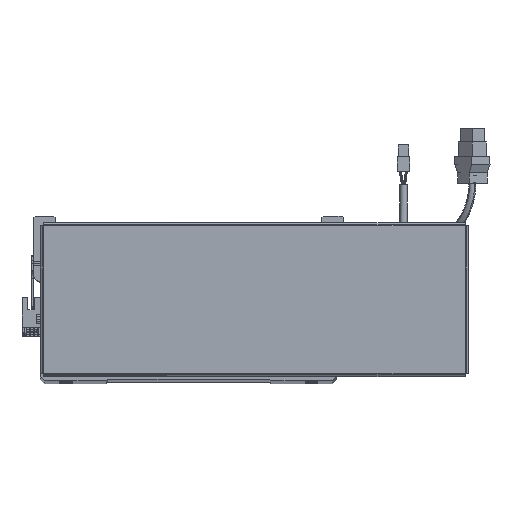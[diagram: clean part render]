
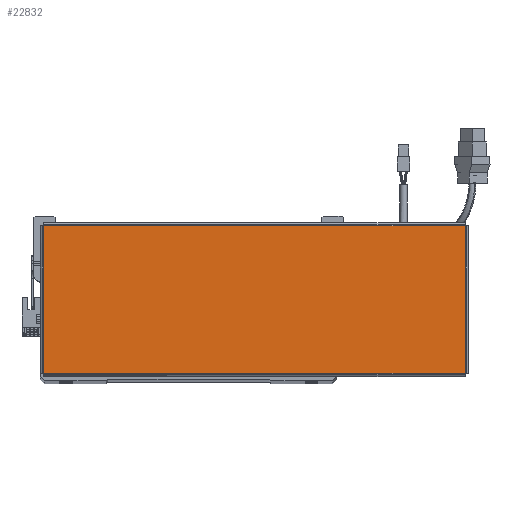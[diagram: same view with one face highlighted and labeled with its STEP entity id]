
A CAD part, top view. The second image highlights one B-rep face of the part: STEP entity #22832.
In plain terms, the highlighted planar face has unit normal (0, 0, 1).
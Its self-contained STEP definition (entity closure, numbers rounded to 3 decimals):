
#28 = EDGE_CURVE ( 'NONE', #54725, #24701, #26368, .T. ) ;
#757 = CARTESIAN_POINT ( 'NONE',  ( -156.543, -54.763, 0. ) ) ;
#9231 = DIRECTION ( 'NONE',  ( 1., 0., 0. ) ) ;
#11734 = VECTOR ( 'NONE', #14046, 1000. ) ;
#14046 = DIRECTION ( 'NONE',  ( 0., 1., 0. ) ) ;
#15309 = EDGE_CURVE ( 'NONE', #50852, #18065, #45563, .T. ) ;
#18065 = VERTEX_POINT ( 'NONE', #62831 ) ;
#21723 = ORIENTED_EDGE ( 'NONE', *, *, #30286, .T. ) ;
#22832 = ADVANCED_FACE ( 'NONE', ( #45584 ), #47755, .T. ) ;
#23065 = EDGE_LOOP ( 'NONE', ( #45089, #27787, #21723, #32086 ) ) ;
#24701 = VERTEX_POINT ( 'NONE', #31511 ) ;
#26064 = EDGE_CURVE ( 'NONE', #18065, #54725, #40516, .T. ) ;
#26368 = LINE ( 'NONE', #29449, #11734 ) ;
#26369 = VECTOR ( 'NONE', #54306, 1000. ) ;
#27488 = CARTESIAN_POINT ( 'NONE',  ( 156.513, -54.763, 0. ) ) ;
#27787 = ORIENTED_EDGE ( 'NONE', *, *, #28, .T. ) ;
#28443 = DIRECTION ( 'NONE',  ( 1., 0., 0. ) ) ;
#29449 = CARTESIAN_POINT ( 'NONE',  ( 156.513, -54.793, 0. ) ) ;
#30286 = EDGE_CURVE ( 'NONE', #24701, #50852, #70223, .T. ) ;
#31511 = CARTESIAN_POINT ( 'NONE',  ( 156.513, 54.763, 0. ) ) ;
#31835 = DIRECTION ( 'NONE',  ( 0., 0., 1. ) ) ;
#32086 = ORIENTED_EDGE ( 'NONE', *, *, #15309, .T. ) ;
#32272 = CARTESIAN_POINT ( 'NONE',  ( -156.513, 54.763, 0. ) ) ;
#33373 = CARTESIAN_POINT ( 'NONE',  ( -156.513, 54.793, 0. ) ) ;
#37697 = AXIS2_PLACEMENT_3D ( 'NONE', #42180, #31835, #9231 ) ;
#40516 = LINE ( 'NONE', #757, #66436 ) ;
#42180 = CARTESIAN_POINT ( 'NONE',  ( 0., 0., 0. ) ) ;
#45089 = ORIENTED_EDGE ( 'NONE', *, *, #26064, .T. ) ;
#45563 = LINE ( 'NONE', #33373, #51622 ) ;
#45584 = FACE_OUTER_BOUND ( 'NONE', #23065, .T. ) ;
#47755 = PLANE ( 'NONE',  #37697 ) ;
#50852 = VERTEX_POINT ( 'NONE', #32272 ) ;
#51622 = VECTOR ( 'NONE', #67495, 1000. ) ;
#54306 = DIRECTION ( 'NONE',  ( -1., 0., 0. ) ) ;
#54725 = VERTEX_POINT ( 'NONE', #27488 ) ;
#60247 = CARTESIAN_POINT ( 'NONE',  ( 156.543, 54.763, 0. ) ) ;
#62831 = CARTESIAN_POINT ( 'NONE',  ( -156.513, -54.763, 0. ) ) ;
#66436 = VECTOR ( 'NONE', #28443, 1000. ) ;
#67495 = DIRECTION ( 'NONE',  ( 0., -1., 0. ) ) ;
#70223 = LINE ( 'NONE', #60247, #26369 ) ;
